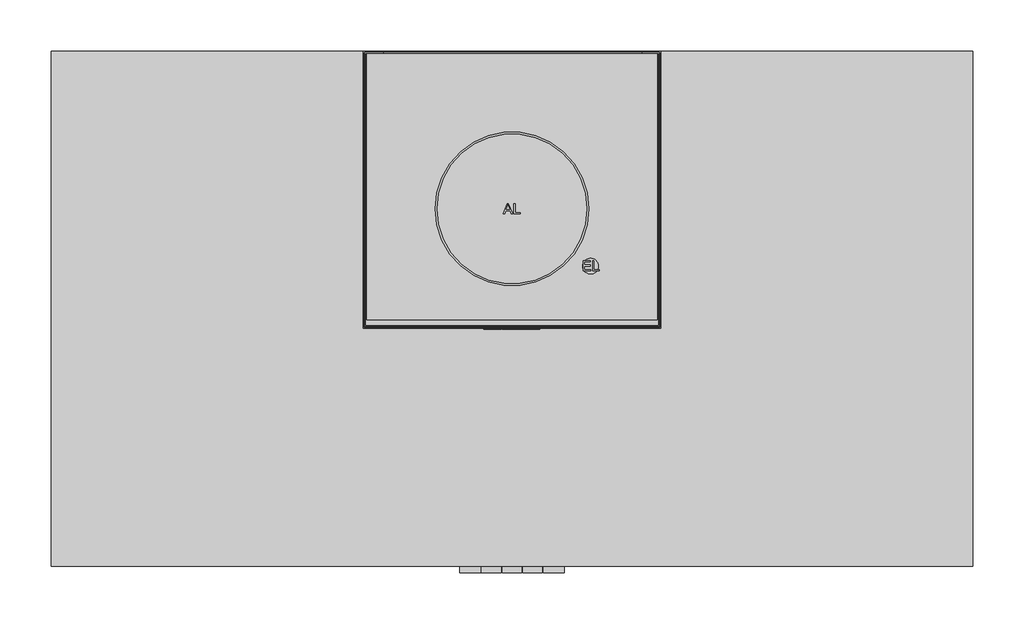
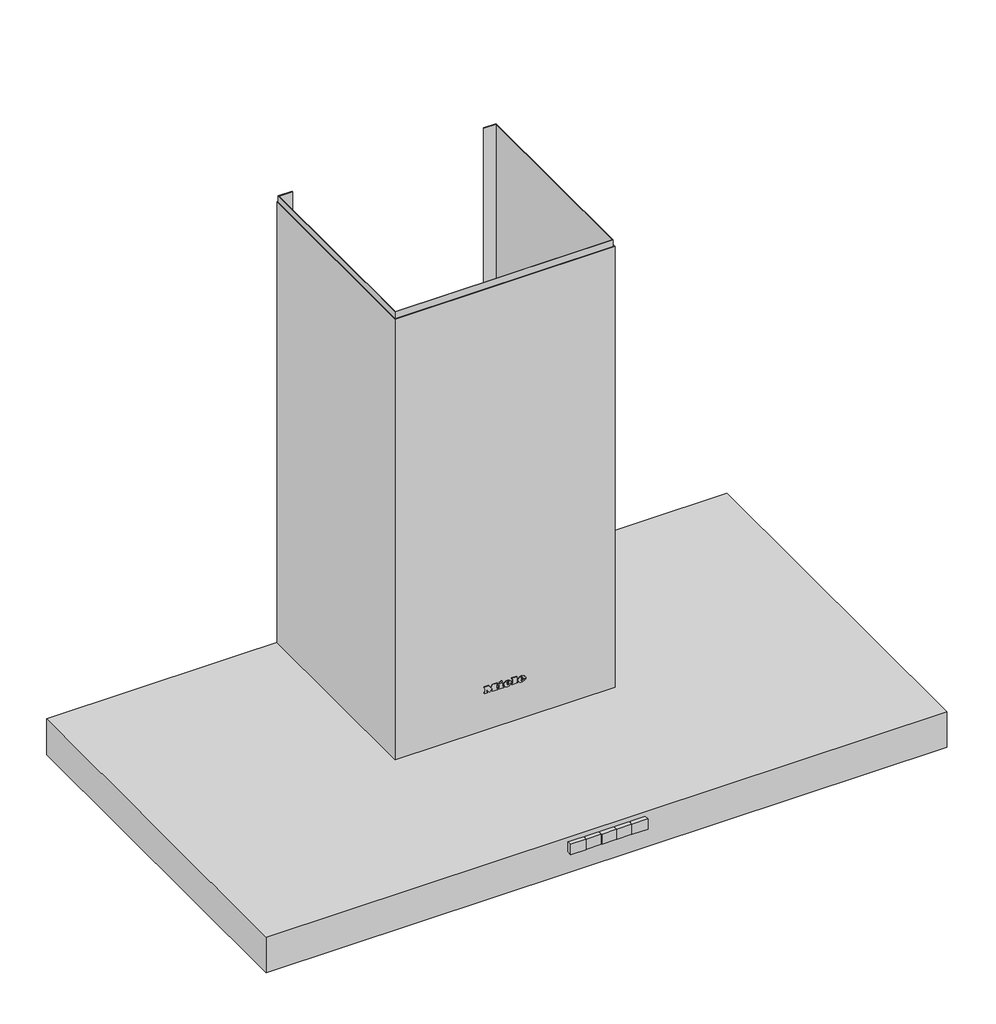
# Not in any storey: 1 proxy.
"""IFC4 building model written with IfcOpenShell, lengths in millimetres."""

from ifc_helpers import new_model, si_unit, origin, place, context, project, spatial, transform, mapped, element, save
from components import specialty_equipment_0c9f008c

model = new_model("IFC4")

# Units and contexts
model_context = context("Model", 3, world=origin())
ifc_project = project(units=[si_unit("LENGTHUNIT", "METRE", prefix="MILLI")], contexts=[model_context])

# Site, building
site = spatial("IfcSite", under=ifc_project)
building = spatial("IfcBuilding", under=site)

# Proxy
placement = place(None, origin())
specialty_equipment_shape = specialty_equipment_0c9f008c(model_context)
element("IfcBuildingElementProxy", 1, Name="12151130_F_DAW1920_EDST : 28W1920E_F_12151130_DAW1920_EDST", ObjectType="12151130_F_DAW1920_EDST : 28W1920E_F_12151130_DAW1920_EDST", at=placement, inside=building, context=model_context, shape_type="MappedRepresentation", body=[
    mapped(specialty_equipment_shape, transform((0.0, 0.0, 0.0), x_axis=(1.0, 0.0, 0.0), y_axis=(0.0, 1.0, 0.0), z_axis=(0.0, 0.0, 1.0))),
])

save(model, "model.ifc")
